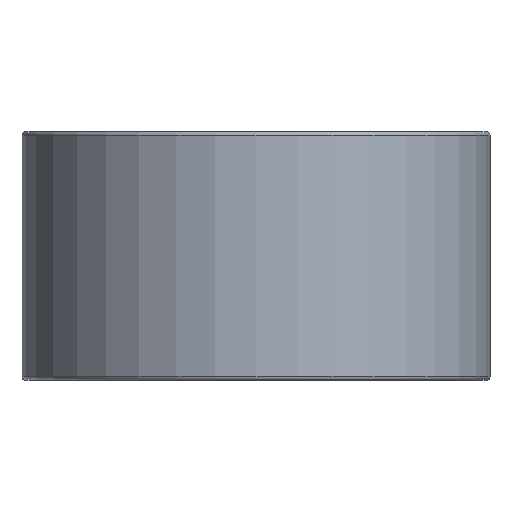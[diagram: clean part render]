
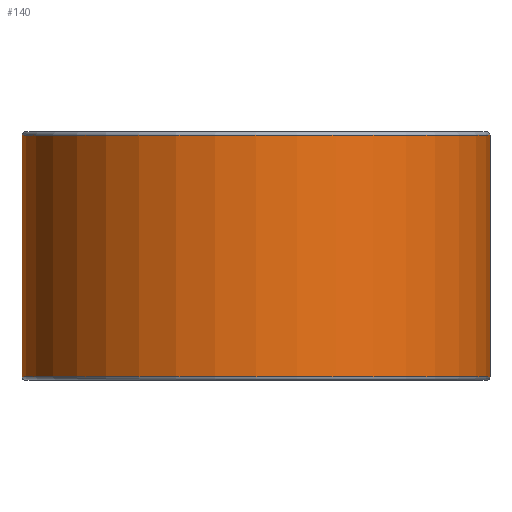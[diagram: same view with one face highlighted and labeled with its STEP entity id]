
A CAD part, front view. The second image highlights one B-rep face of the part: STEP entity #140.
In plain terms, the highlighted cylindrical face has radius 32 mm (diameter 64 mm), a full revolution.
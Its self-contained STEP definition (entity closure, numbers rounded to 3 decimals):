
#122=CYLINDRICAL_SURFACE('',#515,32.);
#140=ADVANCED_FACE('',(#209,#210),#122,.T.);
#209=FACE_BOUND('',#262,.T.);
#210=FACE_BOUND('',#263,.T.);
#262=EDGE_LOOP('',(#333));
#263=EDGE_LOOP('',(#334));
#333=ORIENTED_EDGE('',*,*,#443,.T.);
#334=ORIENTED_EDGE('',*,*,#444,.T.);
#403=VERTEX_POINT('',#811);
#404=VERTEX_POINT('',#813);
#443=EDGE_CURVE('',#403,#403,#473,.T.);
#444=EDGE_CURVE('',#404,#404,#474,.T.);
#473=CIRCLE('',#513,32.);
#474=CIRCLE('',#514,32.);
#513=AXIS2_PLACEMENT_3D('',#810,#605,#606);
#514=AXIS2_PLACEMENT_3D('',#812,#607,#608);
#515=AXIS2_PLACEMENT_3D('',#814,#609,#610);
#605=DIRECTION('',(0.,0.,-1.));
#606=DIRECTION('',(1.,0.,0.));
#607=DIRECTION('',(0.,0.,1.));
#608=DIRECTION('',(1.,0.,0.));
#609=DIRECTION('',(0.,0.,-1.));
#610=DIRECTION('',(-1.,0.,0.));
#810=CARTESIAN_POINT('',(0.,0.,33.5));
#811=CARTESIAN_POINT('',(32.,0.,33.5));
#812=CARTESIAN_POINT('',(0.,0.,0.5));
#813=CARTESIAN_POINT('',(32.,0.,0.5));
#814=CARTESIAN_POINT('',(0.,0.,34.));
